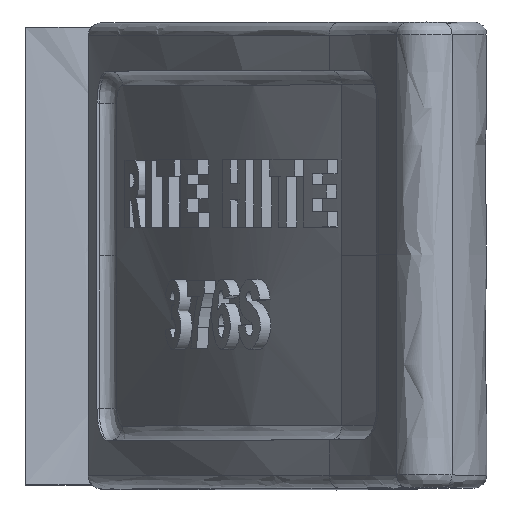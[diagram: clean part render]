
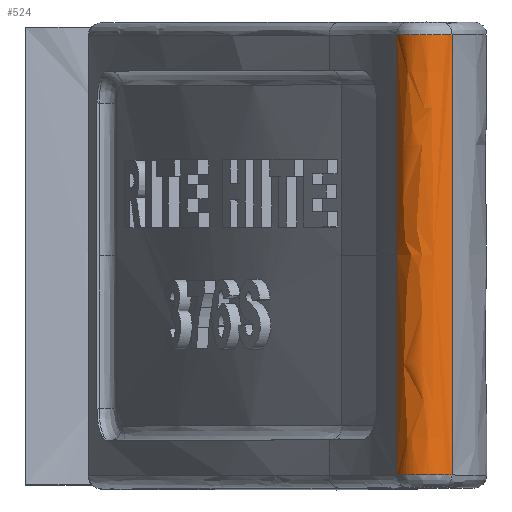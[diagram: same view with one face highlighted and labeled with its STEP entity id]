
A CAD part, top view. The second image highlights one B-rep face of the part: STEP entity #524.
In plain terms, the highlighted free-form (B-spline) face has degree [2, 1] with [5, 2] control points.
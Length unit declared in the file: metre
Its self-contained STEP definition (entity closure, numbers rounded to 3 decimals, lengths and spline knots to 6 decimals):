
#524 = ADVANCED_FACE( '', ( #1404 ), #1405, .T. );
#1404 = FACE_OUTER_BOUND( '', #3379, .T. );
#1405 = ( BOUNDED_SURFACE(  )B_SPLINE_SURFACE( 2, 1, ( ( #3382, #3383 ), ( #3384, #3385 ), ( #3386, #3387 ), ( #3388, #3389 ), ( #3390, #3391 ) ), .UNSPECIFIED., .F., .F., .F. )B_SPLINE_SURFACE_WITH_KNOTS( ( 3, 2, 3 ), ( 2, 2 ), ( 0., 0.25, 0.33504 ), ( 0.018747, 0.981253 ), .UNSPECIFIED. )GEOMETRIC_REPRESENTATION_ITEM(  )RATIONAL_B_SPLINE_SURFACE( ( ( 1., 1. ), ( 0.707, 0.707 ), ( 1., 1. ), ( 0.9, 0.9 ), ( 0.869, 0.869 ) ) )REPRESENTATION_ITEM( '' )SURFACE(  ) );
#3379 = EDGE_LOOP( '', ( #10356, #10357, #10358, #10359, #10360 ) );
#3382 = CARTESIAN_POINT( '', ( 0.026829, 0.013956, 0.046562 ) );
#3383 = CARTESIAN_POINT( '', ( 0.026829, -0.013956, 0.046562 ) );
#3384 = CARTESIAN_POINT( '', ( 0.025636, 0.013956, 0.048167 ) );
#3385 = CARTESIAN_POINT( '', ( 0.025636, -0.013956, 0.048167 ) );
#3386 = CARTESIAN_POINT( '', ( 0.02403, 0.013956, 0.046974 ) );
#3387 = CARTESIAN_POINT( '', ( 0.02403, -0.013956, 0.046974 ) );
#3388 = CARTESIAN_POINT( '', ( 0.023602, 0.013956, 0.046655 ) );
#3389 = CARTESIAN_POINT( '', ( 0.023602, -0.013956, 0.046655 ) );
#3390 = CARTESIAN_POINT( '', ( 0.023389, 0.013956, 0.046165 ) );
#3391 = CARTESIAN_POINT( '', ( 0.023389, -0.013956, 0.046165 ) );
#10356 = ORIENTED_EDGE( '', *, *, #12919, .T. );
#10357 = ORIENTED_EDGE( '', *, *, #12897, .T. );
#10358 = ORIENTED_EDGE( '', *, *, #12920, .T. );
#10359 = ORIENTED_EDGE( '', *, *, #12921, .F. );
#10360 = ORIENTED_EDGE( '', *, *, #12922, .T. );
#12897 = EDGE_CURVE( '', #14541, #14539, #14542, .T. );
#12919 = EDGE_CURVE( '', #14578, #14541, #14579, .T. );
#12920 = EDGE_CURVE( '', #14539, #14580, #14581, .T. );
#12921 = EDGE_CURVE( '', #14582, #14580, #14583, .T. );
#12922 = EDGE_CURVE( '', #14582, #14578, #14584, .T. );
#14539 = VERTEX_POINT( '', #17732 );
#14541 = VERTEX_POINT( '', #17743 );
#14542 = B_SPLINE_CURVE_WITH_KNOTS( '', 1, ( #17744, #17745 ), .UNSPECIFIED., .F., .F., ( 2, 2 ), ( 0.027586, 0.972414 ), .UNSPECIFIED. );
#14578 = VERTEX_POINT( '', #17883 );
#14579 = ( BOUNDED_CURVE(  )B_SPLINE_CURVE( 2, ( #17886, #17887, #17888, #17889, #17890 ), .UNSPECIFIED., .F., .F. )B_SPLINE_CURVE_WITH_KNOTS( ( 3, 2, 3 ), ( 0., 0.25382, 1. ), .UNSPECIFIED. )CURVE(  )GEOMETRIC_REPRESENTATION_ITEM(  )RATIONAL_B_SPLINE_CURVE( ( 0.869, 0.9, 1., 0.707, 1. ) )REPRESENTATION_ITEM( '' ) );
#14580 = VERTEX_POINT( '', #17896 );
#14581 = ( BOUNDED_CURVE(  )B_SPLINE_CURVE( 2, ( #17899, #17900, #17901, #17902, #17903 ), .UNSPECIFIED., .F., .F. )B_SPLINE_CURVE_WITH_KNOTS( ( 3, 2, 3 ), ( 0., 0.74618, 1. ), .UNSPECIFIED. )CURVE(  )GEOMETRIC_REPRESENTATION_ITEM(  )RATIONAL_B_SPLINE_CURVE( ( 1., 0.707, 1., 0.9, 0.869 ) )REPRESENTATION_ITEM( '' ) );
#14582 = VERTEX_POINT( '', #17909 );
#14583 = B_SPLINE_CURVE_WITH_KNOTS( '', 1, ( #17910, #17911 ), .UNSPECIFIED., .F., .F., ( 2, 2 ), ( 0., 0.944828 ), .UNSPECIFIED. );
#14584 = ( BOUNDED_CURVE(  )B_SPLINE_CURVE( 1, ( #17914, #17915 ), .UNSPECIFIED., .F., .F. )B_SPLINE_CURVE_WITH_KNOTS( ( 2, 2 ), ( 0., 0.944828 ), .UNSPECIFIED. )CURVE(  )GEOMETRIC_REPRESENTATION_ITEM(  )RATIONAL_B_SPLINE_CURVE( ( 0.869, 0.869 ) )REPRESENTATION_ITEM( '' ) );
#17732 = CARTESIAN_POINT( '', ( 0.026829, 0.0137, 0.046562 ) );
#17743 = CARTESIAN_POINT( '', ( 0.026829, -0.0137, 0.046562 ) );
#17744 = CARTESIAN_POINT( '', ( 0.026829, -0.0137, 0.046562 ) );
#17745 = CARTESIAN_POINT( '', ( 0.026829, 0.0137, 0.046562 ) );
#17883 = CARTESIAN_POINT( '', ( 0.023389, -0.0137, 0.046165 ) );
#17886 = CARTESIAN_POINT( '', ( 0.023389, -0.0137, 0.046165 ) );
#17887 = CARTESIAN_POINT( '', ( 0.023602, -0.0137, 0.046655 ) );
#17888 = CARTESIAN_POINT( '', ( 0.02403, -0.0137, 0.046974 ) );
#17889 = CARTESIAN_POINT( '', ( 0.025636, -0.0137, 0.048167 ) );
#17890 = CARTESIAN_POINT( '', ( 0.026829, -0.0137, 0.046562 ) );
#17896 = CARTESIAN_POINT( '', ( 0.023389, 0.0137, 0.046165 ) );
#17899 = CARTESIAN_POINT( '', ( 0.026829, 0.0137, 0.046562 ) );
#17900 = CARTESIAN_POINT( '', ( 0.025636, 0.0137, 0.048167 ) );
#17901 = CARTESIAN_POINT( '', ( 0.02403, 0.0137, 0.046974 ) );
#17902 = CARTESIAN_POINT( '', ( 0.023602, 0.0137, 0.046655 ) );
#17903 = CARTESIAN_POINT( '', ( 0.023389, 0.0137, 0.046165 ) );
#17909 = CARTESIAN_POINT( '', ( 0.023389, 0., 0.046165 ) );
#17910 = CARTESIAN_POINT( '', ( 0.023389, 0., 0.046165 ) );
#17911 = CARTESIAN_POINT( '', ( 0.023389, 0.0137, 0.046165 ) );
#17914 = CARTESIAN_POINT( '', ( 0.023389, 0., 0.046165 ) );
#17915 = CARTESIAN_POINT( '', ( 0.023389, -0.0137, 0.046165 ) );
